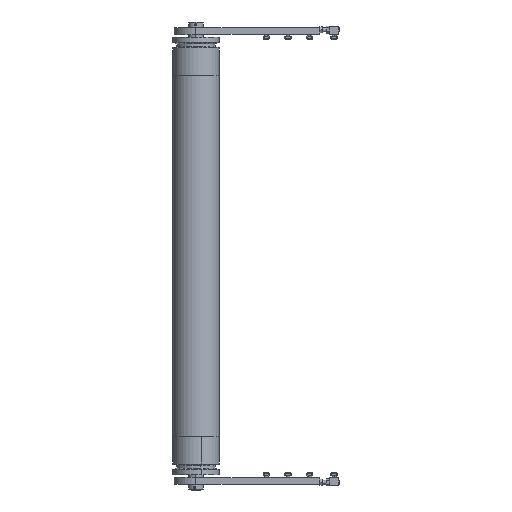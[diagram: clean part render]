
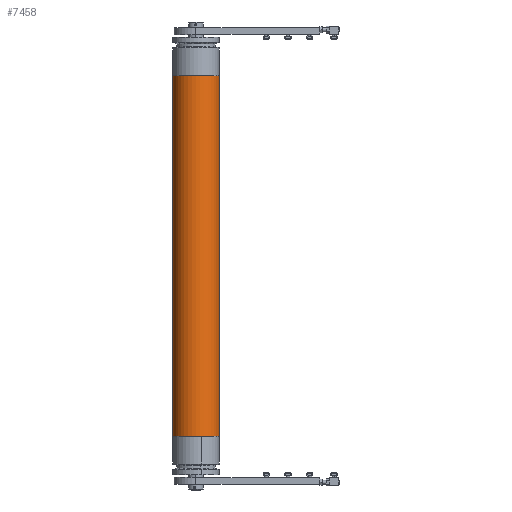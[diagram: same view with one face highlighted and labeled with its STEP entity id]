
A CAD part, front view. The second image highlights one B-rep face of the part: STEP entity #7458.
In plain terms, the highlighted cylindrical face has radius 48 mm (diameter 96 mm), a partial arc.
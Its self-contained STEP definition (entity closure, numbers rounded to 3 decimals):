
#61 = AXIS2_PLACEMENT_3D ( 'NONE', #1949, #9581, #8608 ) ;
#254 = LINE ( 'NONE', #7039, #6513 ) ;
#1833 = DIRECTION ( 'NONE',  ( -1., 0., 0. ) ) ;
#1949 = CARTESIAN_POINT ( 'NONE',  ( 371.5, 0., 0. ) ) ;
#2068 = EDGE_LOOP ( 'NONE', ( #6316, #4323, #10601, #7648 ) ) ;
#2108 = DIRECTION ( 'NONE',  ( 0., 0., -1. ) ) ;
#3014 = EDGE_CURVE ( 'NONE', #3237, #12450, #7452, .T. ) ;
#3237 = VERTEX_POINT ( 'NONE', #8186 ) ;
#3348 = CARTESIAN_POINT ( 'NONE',  ( 371.5, 0., 0. ) ) ;
#3448 = DIRECTION ( 'NONE',  ( -1., 0., 0. ) ) ;
#3569 = EDGE_CURVE ( 'NONE', #13266, #10077, #5705, .T. ) ;
#4182 = CYLINDRICAL_SURFACE ( 'NONE', #11929, 48. ) ;
#4323 = ORIENTED_EDGE ( 'NONE', *, *, #3569, .F. ) ;
#4434 = AXIS2_PLACEMENT_3D ( 'NONE', #9821, #9916, #2108 ) ;
#5705 = CIRCLE ( 'NONE', #61, 48. ) ;
#5805 = EDGE_CURVE ( 'NONE', #10077, #12450, #254, .T. ) ;
#6316 = ORIENTED_EDGE ( 'NONE', *, *, #5805, .F. ) ;
#6513 = VECTOR ( 'NONE', #9257, 1000. ) ;
#7039 = CARTESIAN_POINT ( 'NONE',  ( 371.5, 0., -48. ) ) ;
#7452 = CIRCLE ( 'NONE', #4434, 48. ) ;
#7458 = ADVANCED_FACE ( 'NONE', ( #11892 ), #4182, .T. ) ;
#7630 = EDGE_CURVE ( 'NONE', #13266, #3237, #14320, .T. ) ;
#7648 = ORIENTED_EDGE ( 'NONE', *, *, #3014, .T. ) ;
#7676 = VECTOR ( 'NONE', #1833, 1000. ) ;
#8139 = CARTESIAN_POINT ( 'NONE',  ( 371.5, 0., 48. ) ) ;
#8179 = CARTESIAN_POINT ( 'NONE',  ( 371.5, 0., -48. ) ) ;
#8186 = CARTESIAN_POINT ( 'NONE',  ( -371.5, 0., 48. ) ) ;
#8608 = DIRECTION ( 'NONE',  ( 0., 0., -1. ) ) ;
#9257 = DIRECTION ( 'NONE',  ( -1., 0., 0. ) ) ;
#9581 = DIRECTION ( 'NONE',  ( 1., 0., 0. ) ) ;
#9821 = CARTESIAN_POINT ( 'NONE',  ( -371.5, 0., 0. ) ) ;
#9916 = DIRECTION ( 'NONE',  ( 1., 0., 0. ) ) ;
#10077 = VERTEX_POINT ( 'NONE', #8179 ) ;
#10601 = ORIENTED_EDGE ( 'NONE', *, *, #7630, .T. ) ;
#10834 = CARTESIAN_POINT ( 'NONE',  ( 371.5, 0., 48. ) ) ;
#11196 = CARTESIAN_POINT ( 'NONE',  ( -371.5, 0., -48. ) ) ;
#11892 = FACE_OUTER_BOUND ( 'NONE', #2068, .T. ) ;
#11929 = AXIS2_PLACEMENT_3D ( 'NONE', #3348, #3448, #13461 ) ;
#12450 = VERTEX_POINT ( 'NONE', #11196 ) ;
#13266 = VERTEX_POINT ( 'NONE', #8139 ) ;
#13461 = DIRECTION ( 'NONE',  ( 0., 0., 1. ) ) ;
#14320 = LINE ( 'NONE', #10834, #7676 ) ;
